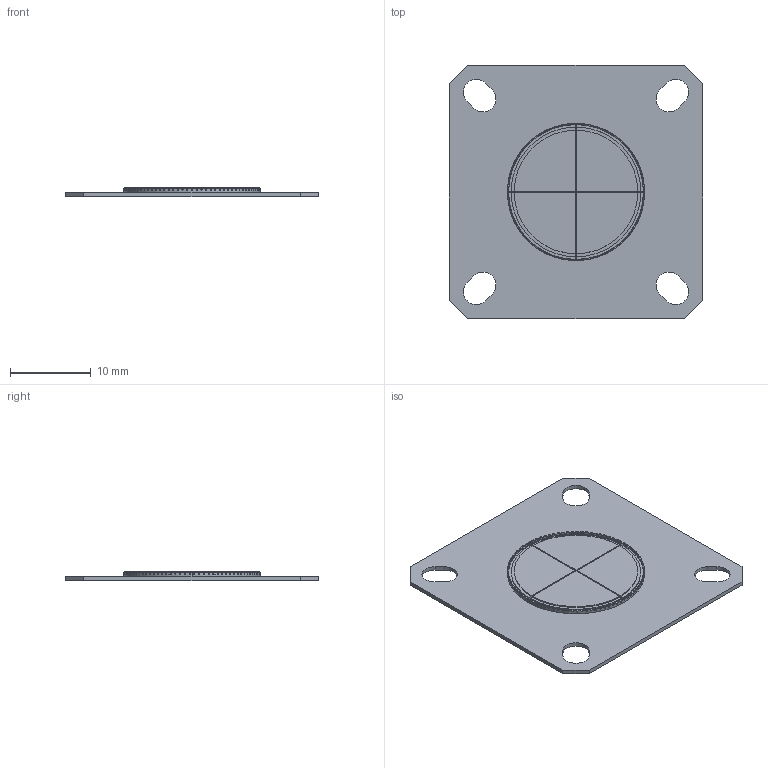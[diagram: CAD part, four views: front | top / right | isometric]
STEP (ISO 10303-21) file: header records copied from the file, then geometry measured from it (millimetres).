
FILE_DESCRIPTION((''),'2;1');
FILE_NAME('PROTO_INSERT_SIM_DUMMY-15','2020-10-15T11:17:24',('ccole'),(''),'CREO PARAMETRIC BY PTC INC, 2019292','CREO PARAMETRIC BY PTC INC, 2019292','');
FILE_SCHEMA(('CONFIG_CONTROL_DESIGN'));
Length unit declared in the file: inch
Products named in the file (1): PROTO_INSERT_SIM_DUMMY-15
Bounding box: 31.29 x 31.29 x 1.14 mm (x, y, z)
Volume: 575 mm3; surface area: 1984.4 mm2
Topology: 1 solids, 1 shells, 607 faces, 1804 edges, 1200 vertices
Faces by surface type: plane 311, cylinder 296
Entity records: 22415 total; most frequent: CARTESIAN_POINT 7654, ORIENTED_EDGE 3608, DIRECTION 2344, EDGE_CURVE 1804, VERTEX_POINT 1200, B_SPLINE_CURVE_WITH_KNOTS 904, AXIS2_PLACEMENT_3D 837, VECTOR 670
